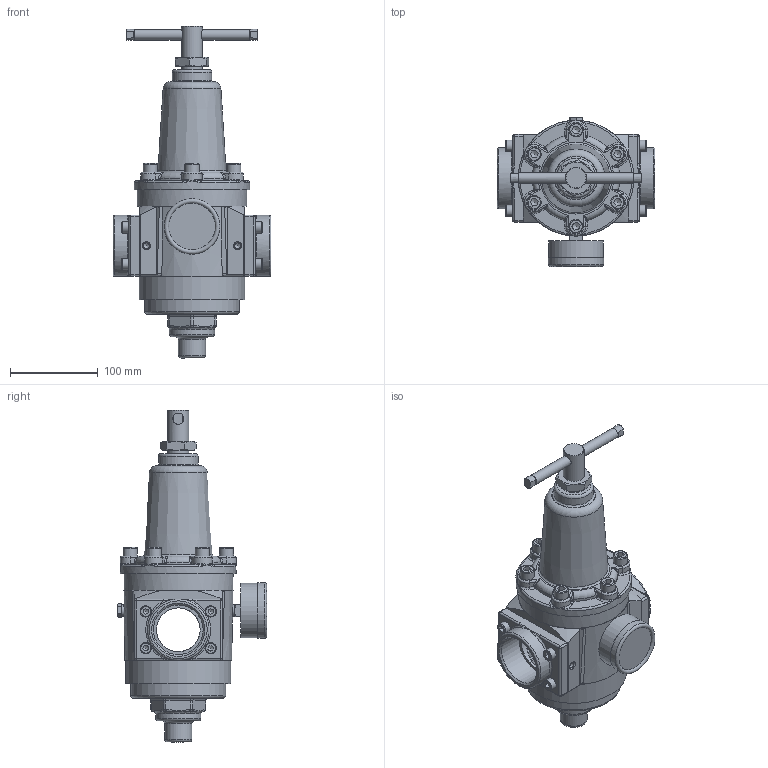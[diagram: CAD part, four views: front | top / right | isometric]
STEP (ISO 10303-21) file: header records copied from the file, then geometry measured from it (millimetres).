
FILE_DESCRIPTION((''),'2;1');
FILE_NAME('I:\GEN\STEP AIRCOM\C01244.stp','2016-10-12T08:07:09',('lucapalazzi'),(''),'Autodesk Inventor 2010','Autodesk Inventor 2010','');
FILE_SCHEMA(('AUTOMOTIVE_DESIGN { 1 0 10303 214 1 1 1 1 }'));
Length unit declared in the file: millimetre
Products named in the file (47): C01244; P20287; P21037; P21037_1; P38035; P34014; P34088; P37045; C43007; 18541; Perno vite regolazione R130; UNI 5589 M24 x 2; 0ABNCC07; 0ABNCC07_1; ISO 7045 - M2.5 x 10 - 4.8 - ZISO; P41040; P45016; P32012; P33027; P32023; 0GAAB18123; 0GAAB13091; 0GAAB07028; P55006; P25015; P27042; P52014; Molla di compressione; Molla di compressione1; C22078; P22048; C22078 - O Ring R28; C22078-0GAAB17156; C01126 - O Ring R25; C01126 - O Ring R43; C01126 - O Ring R43_1; C01126 - O Ring 3243; UNI 5931 M 8 x  25; 0DC20613; 0DC20613_1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
Assembly tree (56 placements, depth 3):
  C01244
    P20287
    P21037
      P21037_1
      P38035
    P34014
    P34088
    P37045  x2
    C43007
      18541
      Perno vite regolazione R130
      UNI 5589 M24 x 2
    0ABNCC07
      0ABNCC07_1
      ISO 7045 - M2.5 x 10 - 4.8 - ZISO  x2
    P41040
    P45016
    P32012
    P33027
    P32023
    0GAAB18123
    0GAAB13091
    0GAAB07028
    P55006
    P25015
    P27042
    P52014
    Molla di compressione
      Molla di compressione1
    C22078
      P22048
      C22078 - O Ring R28
      C22078-0GAAB17156
    C01126 - O Ring R25
    C01126 - O Ring R43
    C01126 - O Ring R43_1
    C01126 - O Ring 3243  x2
    UNI 5931 M 8 x  25  x8
    0DC20613
    0DC20613_1
    0DC20613_2
    0DC20613_3
    0DC20613_4
    0DC20613_5
    P24023
      P24023_1
    C01244-0GAAB08011
Bounding box: 180 x 170.3 x 378.74 mm (x, y, z)
Volume: 748549.6 mm3; surface area: 331254.2 mm2
Topology: 29 solids, 30 shells, 869 faces, 2136 edges, 1285 vertices
Faces by surface type: plane 295, cylinder 223, cone 143, bspline 140, torus 56, sphere 10, revolution 2
Full cylindrical faces by diameter (mm): 2.013 x2, 2.256 x2, 2.5 x2, 2.6 x1, 6.647 x12, 8 x8, 9 x8, 10 x7, 11 x6, 11.445 x2, 12 x1, 12.3 x1, 13 x8, 13.157 x2, 16 x6, 21.835 x1, 22 x1, 24 x1, 26.086 x1, 30 x2, 31 x1, 45 x1, 50 x2, 51.5 x1, 56.656 x2, 61.5 x2, 62 x1, 63.3 x1, 67.2 x2, 70 x2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
Entity records: 25440 total; most frequent: CARTESIAN_POINT 10023, DIRECTION 2988, ORIENTED_EDGE 2822, EDGE_CURVE 1412, AXIS2_PLACEMENT_3D 1297, VERTEX_POINT 940, EDGE_LOOP 898, FACE_OUTER_BOUND 673
